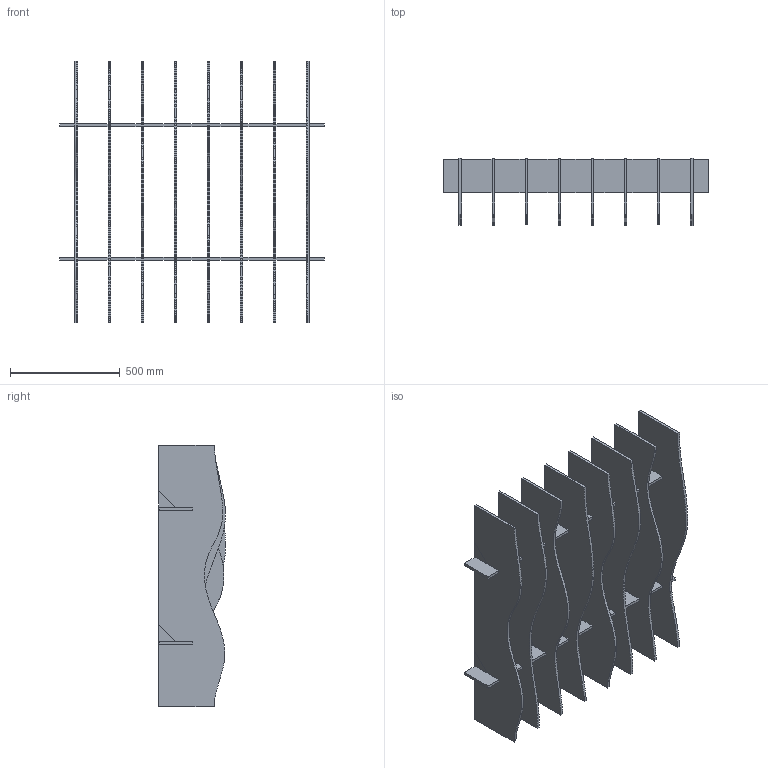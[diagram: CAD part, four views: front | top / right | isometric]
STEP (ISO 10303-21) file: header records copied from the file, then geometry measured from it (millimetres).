
FILE_DESCRIPTION(/* description */ (''),/* implementation_level */ '2;1');
FILE_NAME(/* name */ 'Y:\Design and Engineering\MaterialLogiq\CAD ASSETS\MASTER\BAFFLE\WEB ASSETS\PET BAFFLE_8FIN_4x4_10_WAVE.stp',/* time_stamp */ '2023-11-16T09:59:14-06:00',/* author */ ('Grant Baker'),/* organization */ (''),/* preprocessor_version */ 'ST-DEVELOPER v19',/* originating_system */ 'Autodesk Inventor 2023',/* authorisation */ '');
FILE_SCHEMA (('AUTOMOTIVE_DESIGN { 1 0 10303 214 3 1 1 }'));
Length unit declared in the file: inch
Products named in the file (6): PET BAFFLE_PARAMETRIC_11.02.2023; PET BAFFLE_BEAM; PET BAFFLE_48in_FIN_WAVE-1; PET BAFFLE_48in_FIN_WAVE-3; PET BAFFLE_48in_FIN_WAVE-2; PET BAFFLE_48in_FIN_WAVE-4
Assembly tree (10 placements, depth 2):
  PET BAFFLE_PARAMETRIC_11.02.2023
    PET BAFFLE_BEAM  x2
    PET BAFFLE_48in_FIN_WAVE-1  x2
    PET BAFFLE_48in_FIN_WAVE-3  x2
    PET BAFFLE_48in_FIN_WAVE-2  x2
    PET BAFFLE_48in_FIN_WAVE-4  x2
Bounding box: 1206.5 x 305.22 x 1193.8 mm (x, y, z)
Volume: 33867341.8 mm3; surface area: 5994392.9 mm2
Topology: 26 solids, 26 shells, 1608 faces, 4668 edges, 3112 vertices
Faces by surface type: plane 1608
Entity records: 26193 total; most frequent: CARTESIAN_POINT 4710, ORIENTED_EDGE 4668, DIRECTION 3974, LINE 2334, VECTOR 2334, EDGE_CURVE 2334, VERTEX_POINT 1556, AXIS2_PLACEMENT_3D 820
